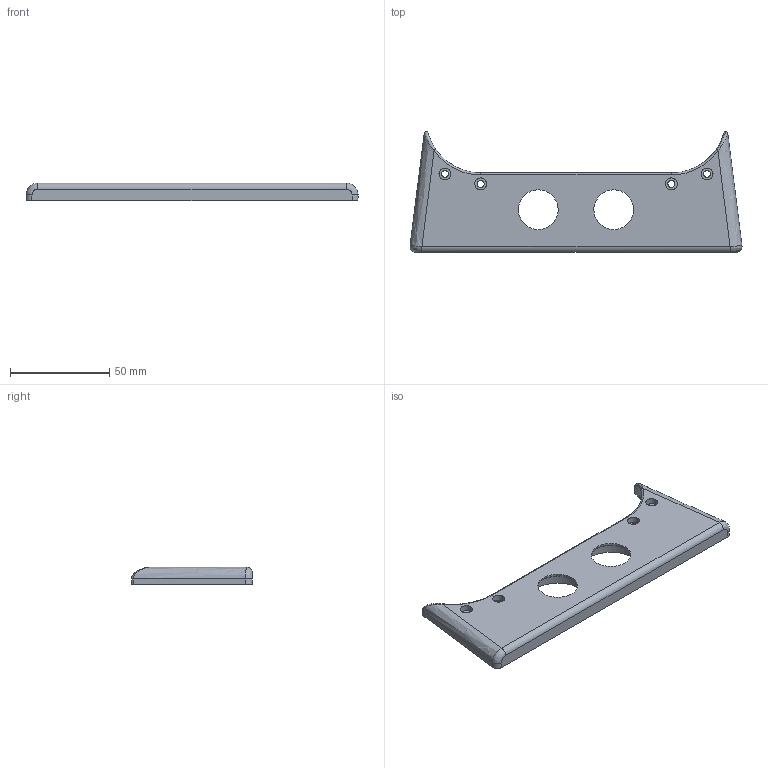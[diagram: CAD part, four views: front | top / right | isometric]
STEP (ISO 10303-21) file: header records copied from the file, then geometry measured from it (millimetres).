
FILE_DESCRIPTION(/* description */ (''),/* implementation_level */ '2;1');
FILE_NAME(/* name */ 'GRIP-2-U',/* time_stamp */ '2015-10-29T17:23:57+09:00',/* author */ (''),/* organization */ (''),/* preprocessor_version */ 'ST-DEVELOPER v15',/* originating_system */ '',/* authorisation */ '');
FILE_SCHEMA (('CONFIG_CONTROL_DESIGN'));
Length unit declared in the file: millimetre
Products named in the file (1): Document
Bounding box: 167.2 x 60.85 x 9 mm (x, y, z)
Volume: 46743.5 mm3; surface area: 18060 mm2
Topology: 1 solids, 1 shells, 75 faces, 181 edges, 116 vertices
Faces by surface type: bspline 63, plane 12
Entity records: 3183 total; most frequent: CARTESIAN_POINT 2053, ORIENTED_EDGE 362, EDGE_CURVE 181, VERTEX_POINT 116, EDGE_LOOP 95, ADVANCED_FACE 75, FACE_OUTER_BOUND 75, B_SPLINE_CURVE_WITH_KNOTS 66
